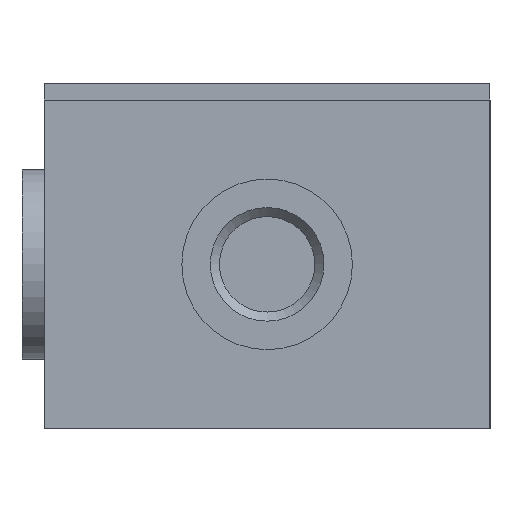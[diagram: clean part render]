
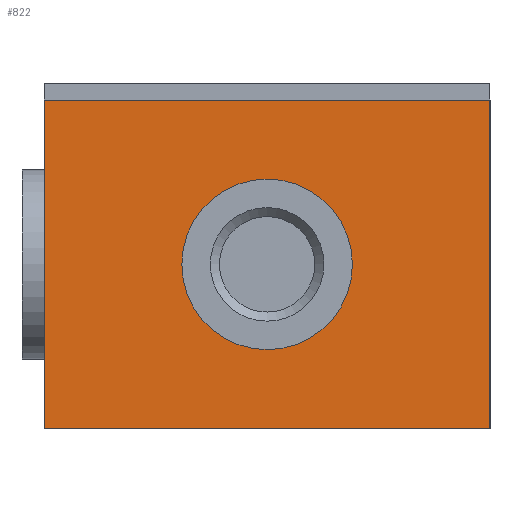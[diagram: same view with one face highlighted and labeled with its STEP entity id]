
A CAD part, left-side view. The second image highlights one B-rep face of the part: STEP entity #822.
In plain terms, the highlighted planar face has unit normal (-1, 0, 0).
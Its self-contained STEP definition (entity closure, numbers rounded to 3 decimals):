
#524=CARTESIAN_POINT('',(-55.0,0.,-8.595));
#525=VERTEX_POINT('',#524);
#526=CARTESIAN_POINT('',(-55.0,0.,-16.25));
#527=DIRECTION('',(1.0,0.0,0.0));
#528=DIRECTION('',(0.0,0.0,-1.0));
#529=AXIS2_PLACEMENT_3D('',#526,#527,#528);
#530=CIRCLE('',#529,7.655);
#531=EDGE_CURVE('',#525,#525,#530,.T.);
#689=CARTESIAN_POINT('',(-55.0,20.,-1.5));
#690=VERTEX_POINT('',#689);
#691=CARTESIAN_POINT('',(-55.0,-20.,-1.5));
#692=VERTEX_POINT('',#691);
#693=CARTESIAN_POINT('',(-55.0,20.,-1.5));
#694=DIRECTION('',(0.0,-1.0,0.0));
#695=VECTOR('',#694,40.);
#696=LINE('',#693,#695);
#697=EDGE_CURVE('',#690,#692,#696,.T.);
#729=CARTESIAN_POINT('',(-55.0,-20.,-31.));
#730=VERTEX_POINT('',#729);
#731=CARTESIAN_POINT('',(-55.0,-20.,-1.5));
#732=DIRECTION('',(0.0,0.0,-1.0));
#733=VECTOR('',#732,29.5);
#734=LINE('',#731,#733);
#735=EDGE_CURVE('',#692,#730,#734,.T.);
#760=CARTESIAN_POINT('',(-55.0,20.,-31.));
#761=VERTEX_POINT('',#760);
#762=CARTESIAN_POINT('',(-55.0,-20.,-31.));
#763=DIRECTION('',(0.0,1.0,0.0));
#764=VECTOR('',#763,40.);
#765=LINE('',#762,#764);
#766=EDGE_CURVE('',#730,#761,#765,.T.);
#791=CARTESIAN_POINT('',(-55.0,20.,-31.));
#792=DIRECTION('',(0.0,0.0,1.0));
#793=VECTOR('',#792,29.5);
#794=LINE('',#791,#793);
#795=EDGE_CURVE('',#761,#690,#794,.T.);
#808=CARTESIAN_POINT('',(-55.0,0.,-16.25));
#809=DIRECTION('',(1.0,0.0,0.0));
#810=DIRECTION('',(0.0,0.0,-1.0));
#811=AXIS2_PLACEMENT_3D('',#808,#809,#810);
#812=PLANE('',#811);
#813=ORIENTED_EDGE('',*,*,#697,.F.);
#814=ORIENTED_EDGE('',*,*,#795,.F.);
#815=ORIENTED_EDGE('',*,*,#766,.F.);
#816=ORIENTED_EDGE('',*,*,#735,.F.);
#817=EDGE_LOOP('',(#813,#814,#815,#816));
#818=FACE_OUTER_BOUND('',#817,.T.);
#819=ORIENTED_EDGE('',*,*,#531,.T.);
#820=EDGE_LOOP('',(#819));
#821=FACE_BOUND('',#820,.T.);
#822=ADVANCED_FACE('',(#818,#821),#812,.F.);
